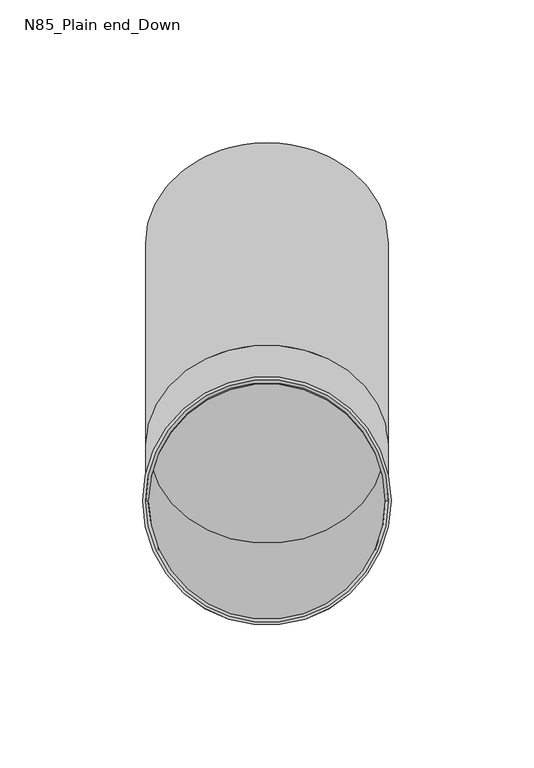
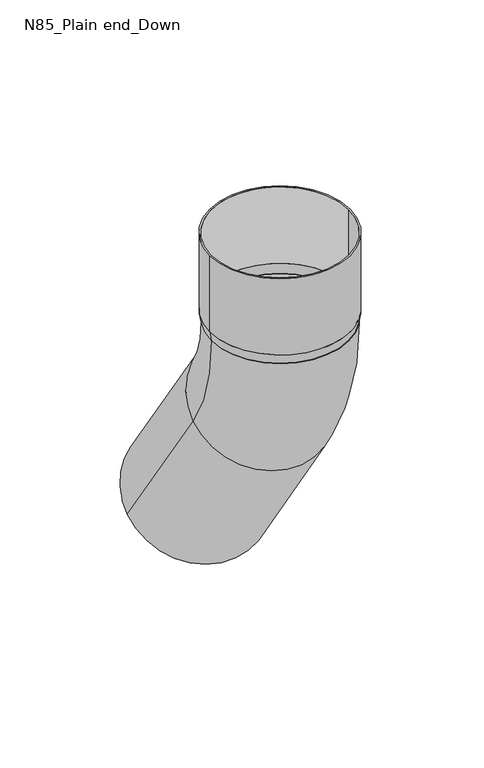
"""IFC4 building model written with IfcOpenShell, lengths in millimetres: proxy geometry, GROVIK_Downpipe_Adjustable offset : N85_Plain end_Down."""

from ifc_helpers import new_model, si_unit, point, frame, origin, origin_with_axes, origin_2d, place, context, project, spatial, polyline, circle_curve, ellipse_curve, trimmed, segment, composite_curve, outline, extrude, source, transform, mapped, element, save
from ifc_brep_helpers import plane_surface, cylinder_surface, revolved_surface, advanced_brep


def n85_plain_end_down_f1a2d2c5(model_context):
    return source(origin(), model_context, "Body", "SolidModel", [
        extrude(outline(composite_curve([segment(trimmed(circle_curve(origin_2d(), 43.5), [point((-43.5, 0.0))], [point((43.5, 0.0))], False, "CARTESIAN"), True, "CONTINUOUS"), segment(trimmed(circle_curve(origin_2d(), 43.5), [point((43.5, 0.0))], [point((-43.5, 0.0))], False, "CARTESIAN"), True, "CONTINUOUS")], self_intersect=False), holes=[composite_curve([segment(trimmed(circle_curve(origin_2d(), 42.5), [point((-42.5, 0.0))], [point((42.5, 0.0))], True, "CARTESIAN"), True, "CONTINUOUS"), segment(trimmed(circle_curve(origin_2d(), 42.5), [point((42.5, 0.0))], [point((-42.5, 0.0))], True, "CARTESIAN"), True, "CONTINUOUS")], self_intersect=False)]), frame((0.0, 0.0, 6.0), z_axis=(0.0, 0.0, 1.0), x_axis=(1.0, 0.0, 0.0)), (0.0, 0.0, 1.0), 50.0),
        advanced_brep(
        [(-42.5, 0.0, 0.0), (42.5, 0.0, 0.0), (41.5, 0.0, 0.0), (-41.5, 0.0, 0.0), (-43.5, 0.0, 6.0), (43.5, 0.0, 6.0), (-42.5, 0.0, 6.0), (42.5, 0.0, 6.0)],
        [
            (0, 1, circle_curve(frame((0.0, 0.0, 0.0), z_axis=(0.0, 0.0, -1.0), x_axis=(-1.0, 0.0, 0.0)), 42.5)),
            (1, 0, circle_curve(frame((0.0, 0.0, 0.0), z_axis=(0.0, 0.0, -1.0), x_axis=(1.0, 0.0, 0.0)), 42.5)),
            (2, 3, circle_curve(frame((0.0, 0.0, 0.0), z_axis=(0.0, 0.0, 1.0), x_axis=(-1.0, 0.0, 0.0)), 41.5)),
            (3, 2, circle_curve(origin_with_axes(), 41.5)),
            (4, 5, circle_curve(frame((0.0, 0.0, 6.0), z_axis=(0.0, 0.0, 1.0), x_axis=(1.0, 0.0, 0.0)), 43.5)),
            (5, 4, circle_curve(frame((0.0, 0.0, 6.0), z_axis=(0.0, 0.0, 1.0), x_axis=(-1.0, 0.0, 0.0)), 43.5)),
            (6, 7, circle_curve(frame((0.0, 0.0, 6.0), z_axis=(0.0, 0.0, -1.0), x_axis=(-1.0, 0.0, 0.0)), 42.5)),
            (7, 6, circle_curve(frame((0.0, 0.0, 6.0), z_axis=(0.0, 0.0, -1.0), x_axis=(1.0, 0.0, 0.0)), 42.5)),
            (0, 4),
            (5, 1),
            (6, 3),
            (2, 7),
        ],
        [
            plane_surface(frame((0.0, 0.0, 0.0), z_axis=(0.0, 0.0, -1.0), x_axis=(0.0, 1.0, 0.0))),
            plane_surface(frame((0.0, 0.0, 6.0), z_axis=(0.0, 0.0, 1.0), x_axis=(0.0, 1.0, 0.0))),
            revolved_surface(polyline([(-42.5, 0.0, 0.0), (-43.5, 0.0, 6.0)]), (0.0, 0.0, -255.0), (0.0, 0.0, 1.0)),
            revolved_surface(polyline([(42.5, 0.0, 0.0), (43.5, 0.0, 6.0)]), (0.0, 0.0, -255.0), (0.0, 0.0, 1.0)),
            revolved_surface(polyline([(-42.5, 0.0, 6.0), (-41.5, 0.0, 0.0)]), (0.0, 0.0, -249.0), (0.0, 0.0, 1.0)),
        ],
        [
            (0, [[1, 2], [3, 4]]),
            (1, [[5, 6], [7, 8]]),
            (2, [[-1, 9, -6, 10]]),
            (3, [[-2, -10, -5, -9]]),
            (4, [[11, -3, 12, -7]]),
            (4, [[-11, -8, -12, -4]]),
        ],
    ),
        advanced_brep(
        [(-42.5, -0.4836327, 0.0), (42.5, -0.4836327, 0.0), (-41.5, -0.4836327, 0.0), (41.5, -0.4836327, 0.0), (41.5, 19.4359595, -64.6893813), (-41.5, 19.4359595, -64.6893813), (42.5, 19.4359595, -64.6893813), (-42.5, 19.4359595, -64.6893813), (-42.5, 90.3130207, -168.8644368), (42.5, 90.3130207, -168.8644368), (-41.5, 90.3130207, -168.8644368), (41.5, 90.3130207, -168.8644368)],
        [
            (0, 1, circle_curve(frame((0.0, -0.4836327, 0.0), z_axis=(0.0, 0.0, 1.0), x_axis=(1.0, 0.0, 0.0)), 42.5)),
            (1, 0, circle_curve(frame((0.0, -0.4836327, 0.0), z_axis=(0.0, 0.0, 1.0), x_axis=(1.0, 0.0, 0.0)), 42.5)),
            (2, 3, circle_curve(frame((0.0, -0.4836327, 0.0), z_axis=(0.0, 0.0, -1.0), x_axis=(1.0, 0.0, 0.0)), 41.5)),
            (3, 2, circle_curve(frame((0.0, -0.4836327, 0.0), z_axis=(0.0, 0.0, -1.0), x_axis=(1.0, 0.0, 0.0)), 41.5)),
            (4, 3, circle_curve(frame((41.5, 114.5163673, 0.0), z_axis=(-1.0, 0.0, 0.0), x_axis=(0.0, -1.0, 0.0)), 115.0)),
            (2, 5, circle_curve(frame((-41.5, 114.5163673, 0.0), z_axis=(1.0, 0.0, 0.0), x_axis=(0.0, -1.0, 0.0)), 115.0)),
            (5, 4, circle_curve(frame((0.0, 19.4359595, -64.6893813), z_axis=(0.0, 0.5625163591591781, -0.826786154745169), x_axis=(1.0, 0.0, 0.0)), 41.5)),
            (4, 5, circle_curve(frame((0.0, 19.4359595, -64.6893813), z_axis=(0.0, 0.5625163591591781, -0.826786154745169), x_axis=(1.0, 0.0, 0.0)), 41.5)),
            (6, 1, circle_curve(frame((42.5, 114.5163673, 0.0), z_axis=(-1.0, 0.0, 0.0), x_axis=(0.0, -1.0, 0.0)), 115.0)),
            (0, 7, circle_curve(frame((-42.5, 114.5163673, 0.0), z_axis=(1.0, 0.0, 0.0), x_axis=(0.0, -1.0, 0.0)), 115.0)),
            (7, 6, circle_curve(frame((0.0, 19.4359595, -64.6893813), z_axis=(0.0, -0.5625163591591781, 0.826786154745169), x_axis=(1.0, 0.0, 0.0)), 42.5)),
            (6, 7, circle_curve(frame((0.0, 19.4359595, -64.6893813), z_axis=(0.0, -0.5625163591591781, 0.826786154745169), x_axis=(1.0, 0.0, 0.0)), 42.5)),
            (8, 9, circle_curve(frame((0.0, 90.3130207, -168.8644368), z_axis=(0.0, 0.5625163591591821, -0.8267861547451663), x_axis=(1.0, 0.0, 0.0)), 42.5)),
            (9, 8, circle_curve(frame((0.0, 90.3130207, -168.8644368), z_axis=(0.0, 0.5625163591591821, -0.8267861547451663), x_axis=(1.0, 0.0, 0.0)), 42.5)),
            (10, 11, circle_curve(frame((0.0, 90.3130207, -168.8644368), z_axis=(0.0, -0.5625163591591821, 0.8267861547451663), x_axis=(1.0, 0.0, 0.0)), 41.5)),
            (11, 10, circle_curve(frame((0.0, 90.3130207, -168.8644368), z_axis=(0.0, -0.5625163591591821, 0.8267861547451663), x_axis=(1.0, 0.0, 0.0)), 41.5)),
            (5, 10),
            (11, 4),
            (7, 8),
            (9, 6),
        ],
        [
            plane_surface(frame((0.0, -0.4836327, 0.0), z_axis=(0.0, 0.0, 1.0), x_axis=(1.0, 0.0, 0.0))),
            revolved_surface(trimmed(ellipse_curve(frame((0.0, -0.4836327, 0.0), z_axis=(0.0, 0.0, -1.0), x_axis=(1.0, 0.0, 0.0)), 41.5, 41.5), [point((-41.5, -0.4836327, 0.0))], [point((41.5, -0.4836327, 0.0))], True, "CARTESIAN"), (0.0, 114.5163673, 0.0), (1.0, 0.0, 0.0)),
            revolved_surface(trimmed(ellipse_curve(frame((0.0, -0.4836327, 0.0), z_axis=(0.0, 0.0, -1.0), x_axis=(1.0, 0.0, 0.0)), 41.5, 41.5), [point((41.5, -0.4836327, 0.0))], [point((-41.5, -0.4836327, 0.0))], True, "CARTESIAN"), (0.0, 114.5163673, 0.0), (1.0, 0.0, 0.0)),
            revolved_surface(trimmed(ellipse_curve(frame((0.0, -0.4836327, 0.0), z_axis=(0.0, 0.0, 1.0), x_axis=(1.0, 0.0, 0.0)), 42.5, 42.5), [point((-42.5, -0.4836327, 0.0))], [point((42.5, -0.4836327, 0.0))], True, "CARTESIAN"), (0.0, 114.5163673, 0.0), (1.0, 0.0, 0.0)),
            revolved_surface(trimmed(ellipse_curve(frame((0.0, -0.4836327, 0.0), z_axis=(0.0, 0.0, 1.0), x_axis=(1.0, 0.0, 0.0)), 42.5, 42.5), [point((42.5, -0.4836327, 0.0))], [point((-42.5, -0.4836327, 0.0))], True, "CARTESIAN"), (0.0, 114.5163673, 0.0), (1.0, 0.0, 0.0)),
            plane_surface(frame((0.0, 90.3130207, -168.8644368), z_axis=(0.0, 0.5625163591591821, -0.8267861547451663), x_axis=(1.0, 0.0, 0.0))),
            revolved_surface(polyline([(41.5, 90.31302073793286, -168.86443677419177), (41.5, 19.435959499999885, -64.68938129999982)]), (0.0, 19.4359595, -64.6893813), (0.0, 0.5625163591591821, -0.8267861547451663)),
            cylinder_surface(frame((0.0, 19.4359595, -64.6893813), z_axis=(0.0, -0.5625163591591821, 0.8267861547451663), x_axis=(1.0, 0.0, 0.0)), 42.5),
        ],
        [
            (0, [[1, 2], [3, 4]]),
            (1, [[5, -3, 6, 7]]),
            (2, [[-6, -4, -5, 8]]),
            (3, [[9, -1, 10, 11]]),
            (4, [[-10, -2, -9, 12]]),
            (5, [[13, 14], [15, 16]]),
            (6, [[-7, 17, -16, 18]]),
            (6, [[-8, -18, -15, -17]]),
            (7, [[-11, 19, -14, 20]]),
            (7, [[-12, -20, -13, -19]]),
        ],
    ),
    ])


if __name__ == "__main__":
    model = new_model("IFC4")
    model_context = context("Model", 3, world=origin())
    ifc_project = project(units=[si_unit("LENGTHUNIT", "METRE", prefix="MILLI")], contexts=[model_context])
    site = spatial("IfcSite", under=ifc_project)
    building = spatial("IfcBuilding", under=site)
    placement = place(None, origin())
    n85_plain_end_down_shape = n85_plain_end_down_f1a2d2c5(model_context)
    element("IfcBuildingElementProxy", 1, Name="GROVIK_Downpipe_Adjustable offset : N85_Plain end_Down", ObjectType="GROVIK_Downpipe_Adjustable offset : N85_Plain end_Down", at=placement, inside=building, context=model_context, shape_type="MappedRepresentation", body=[
        mapped(n85_plain_end_down_shape, transform((0.0, 0.0, 0.0), x_axis=(1.0, 0.0, 0.0), y_axis=(0.0, 1.0, 0.0), z_axis=(0.0, 0.0, 1.0))),
    ])
    save(model, "model.ifc")
